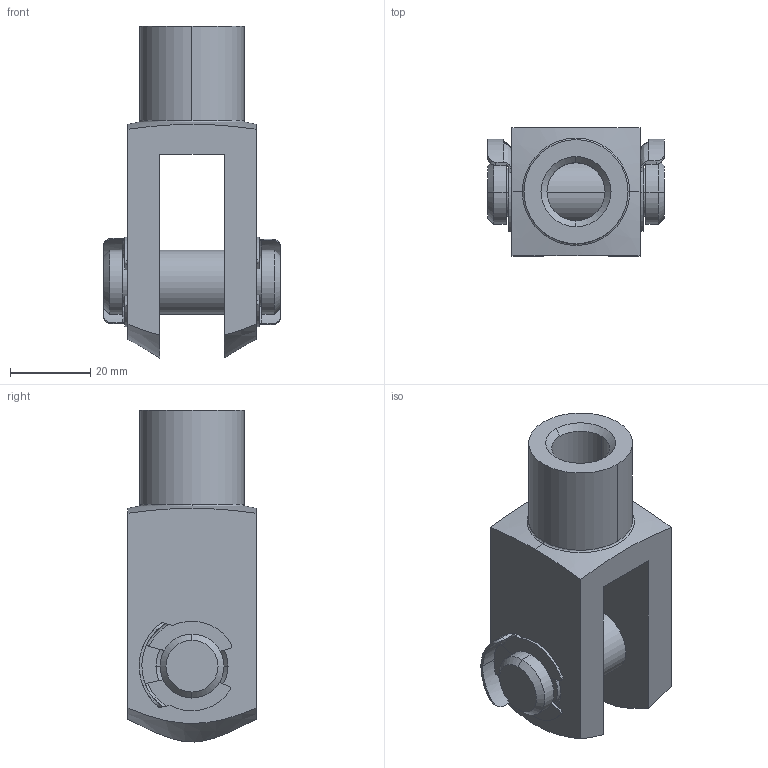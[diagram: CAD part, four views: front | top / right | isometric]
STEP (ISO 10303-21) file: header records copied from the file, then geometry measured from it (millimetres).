
FILE_DESCRIPTION (( 'STEP AP214' ), '1' );
FILE_NAME ('63_Catal_Baglantý.STEP', '2020-12-04T18:44:44', ( '' ), ( '' ), 'SwSTEP 2.0', 'SolidWorks 2021', '' );
FILE_SCHEMA (( 'AUTOMOTIVE_DESIGN' ));
Length unit declared in the file: millimetre
Products named in the file (4): 63  KLÝPS; 63  ÇATAL BAÐ. (RC); 63  ﾇB  PﾝMﾝ; 63_Catal_Baglantý
Assembly tree (4 placements, depth 2):
  63_Catal_Baglantý
    63  ÇATAL BAÐ. (RC)
    63  ﾇB  PﾝMﾝ
    63  KLÝPS  x2
Bounding box: 44.2 x 32 x 82.98 mm (x, y, z)
Volume: 45084.5 mm3; surface area: 17846.8 mm2
Topology: 4 solids, 4 shells, 124 faces, 316 edges, 204 vertices
Faces by surface type: cylinder 62, plane 38, cone 14, bspline 10
Entity records: 3143 total; most frequent: CARTESIAN_POINT 912, DIRECTION 446, ORIENTED_EDGE 428, EDGE_CURVE 214, AXIS2_PLACEMENT_3D 181, VERTEX_POINT 138, EDGE_LOOP 96, CIRCLE 94
